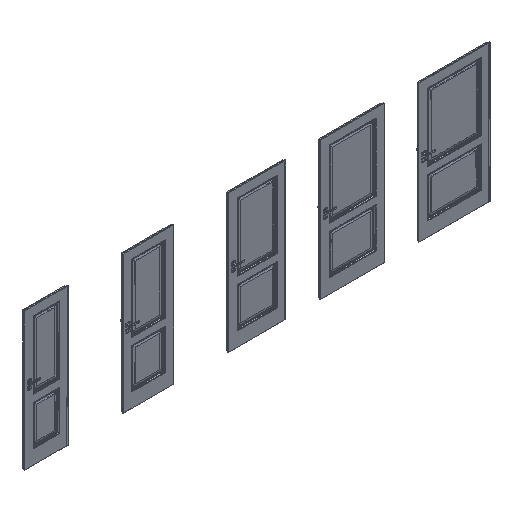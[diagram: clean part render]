
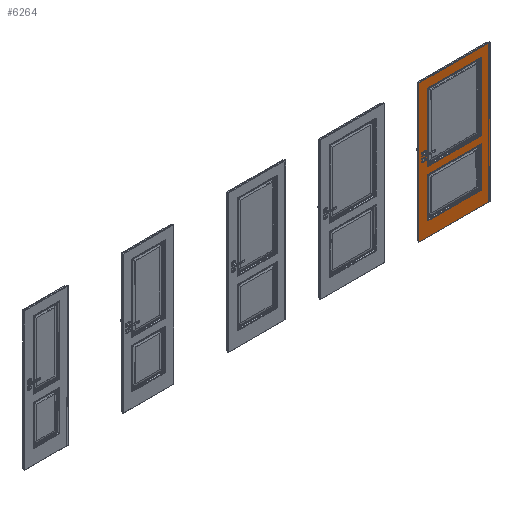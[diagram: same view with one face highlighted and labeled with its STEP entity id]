
A CAD part, isometric view. The second image highlights one B-rep face of the part: STEP entity #6264.
In plain terms, the highlighted planar face has unit normal (0, -1, 0).
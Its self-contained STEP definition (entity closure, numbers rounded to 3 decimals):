
#1485=B_SPLINE_CURVE_WITH_KNOTS('',3,(#74657,#74658,#74659,#74660),
 .UNSPECIFIED.,.F.,.F.,(4,4),(0.,1.),.UNSPECIFIED.);
#1486=B_SPLINE_CURVE_WITH_KNOTS('',3,(#74663,#74664,#74665,#74666),
 .UNSPECIFIED.,.F.,.F.,(4,4),(0.,1.),.UNSPECIFIED.);
#1487=B_SPLINE_CURVE_WITH_KNOTS('',3,(#74668,#74669,#74670,#74671),
 .UNSPECIFIED.,.F.,.F.,(4,4),(0.,1.),.UNSPECIFIED.);
#1488=B_SPLINE_CURVE_WITH_KNOTS('',3,(#74673,#74674,#74675,#74676),
 .UNSPECIFIED.,.F.,.F.,(4,4),(0.,1.),.UNSPECIFIED.);
#1489=B_SPLINE_CURVE_WITH_KNOTS('',3,(#74687,#74688,#74689,#74690),
 .UNSPECIFIED.,.F.,.F.,(4,4),(0.,1.),.UNSPECIFIED.);
#1490=B_SPLINE_CURVE_WITH_KNOTS('',3,(#74693,#74694,#74695,#74696),
 .UNSPECIFIED.,.F.,.F.,(4,4),(0.,1.),.UNSPECIFIED.);
#1491=B_SPLINE_CURVE_WITH_KNOTS('',3,(#74698,#74699,#74700,#74701),
 .UNSPECIFIED.,.F.,.F.,(4,4),(0.,1.),.UNSPECIFIED.);
#1492=B_SPLINE_CURVE_WITH_KNOTS('',3,(#74703,#74704,#74705,#74706),
 .UNSPECIFIED.,.F.,.F.,(4,4),(0.,1.),.UNSPECIFIED.);
#6264=ADVANCED_FACE('',(#9345,#9346,#9347),#7890,.F.);
#7890=PLANE('',#40108);
#9345=FACE_BOUND('',#10929,.T.);
#9346=FACE_BOUND('',#10930,.T.);
#9347=FACE_BOUND('',#10931,.T.);
#10929=EDGE_LOOP('',(#18228,#18229,#18230,#18231,#18232));
#10930=EDGE_LOOP('',(#18233,#18234,#18235,#18236));
#10931=EDGE_LOOP('',(#18237,#18238,#18239,#18240,#18241));
#18228=ORIENTED_EDGE('',*,*,#29345,.F.);
#18229=ORIENTED_EDGE('',*,*,#29346,.F.);
#18230=ORIENTED_EDGE('',*,*,#29347,.F.);
#18231=ORIENTED_EDGE('',*,*,#29348,.F.);
#18232=ORIENTED_EDGE('',*,*,#29349,.F.);
#18233=ORIENTED_EDGE('',*,*,#29350,.T.);
#18234=ORIENTED_EDGE('',*,*,#29351,.T.);
#18235=ORIENTED_EDGE('',*,*,#29352,.F.);
#18236=ORIENTED_EDGE('',*,*,#29353,.F.);
#18237=ORIENTED_EDGE('',*,*,#29354,.F.);
#18238=ORIENTED_EDGE('',*,*,#29355,.F.);
#18239=ORIENTED_EDGE('',*,*,#29356,.F.);
#18240=ORIENTED_EDGE('',*,*,#29357,.F.);
#18241=ORIENTED_EDGE('',*,*,#29358,.F.);
#24824=VERTEX_POINT('',#74661);
#24825=VERTEX_POINT('',#74662);
#24826=VERTEX_POINT('',#74667);
#24827=VERTEX_POINT('',#74672);
#24828=VERTEX_POINT('',#74677);
#24829=VERTEX_POINT('',#74680);
#24830=VERTEX_POINT('',#74681);
#24831=VERTEX_POINT('',#74683);
#24832=VERTEX_POINT('',#74685);
#24833=VERTEX_POINT('',#74691);
#24834=VERTEX_POINT('',#74692);
#24835=VERTEX_POINT('',#74697);
#24836=VERTEX_POINT('',#74702);
#24837=VERTEX_POINT('',#74707);
#29345=EDGE_CURVE('',#24824,#24825,#1485,.T.);
#29346=EDGE_CURVE('',#24826,#24824,#1486,.T.);
#29347=EDGE_CURVE('',#24827,#24826,#1487,.T.);
#29348=EDGE_CURVE('',#24828,#24827,#1488,.T.);
#29349=EDGE_CURVE('',#24825,#24828,#33537,.T.);
#29350=EDGE_CURVE('',#24829,#24830,#33538,.T.);
#29351=EDGE_CURVE('',#24830,#24831,#33539,.T.);
#29352=EDGE_CURVE('',#24832,#24831,#33540,.T.);
#29353=EDGE_CURVE('',#24829,#24832,#33541,.T.);
#29354=EDGE_CURVE('',#24833,#24834,#1489,.T.);
#29355=EDGE_CURVE('',#24835,#24833,#1490,.T.);
#29356=EDGE_CURVE('',#24836,#24835,#1491,.T.);
#29357=EDGE_CURVE('',#24837,#24836,#1492,.T.);
#29358=EDGE_CURVE('',#24834,#24837,#33542,.T.);
#33537=LINE('',#74678,#36951);
#33538=LINE('',#74679,#36952);
#33539=LINE('',#74682,#36953);
#33540=LINE('',#74684,#36954);
#33541=LINE('',#74686,#36955);
#33542=LINE('',#74708,#36956);
#36951=VECTOR('',#45817,1.);
#36952=VECTOR('',#45818,1.);
#36953=VECTOR('',#45819,1.);
#36954=VECTOR('',#45820,1.);
#36955=VECTOR('',#45821,1.);
#36956=VECTOR('',#45822,1.);
#40108=AXIS2_PLACEMENT_3D('',#74709,#45823,#45824);
#45817=DIRECTION('',(-1.,0.,0.));
#45818=DIRECTION('',(0.,0.,-1.));
#45819=DIRECTION('',(1.,0.,0.));
#45820=DIRECTION('',(0.,0.,-1.));
#45821=DIRECTION('',(1.,0.,0.));
#45822=DIRECTION('',(-1.,0.,0.));
#45823=DIRECTION('',(0.,1.,0.));
#45824=DIRECTION('',(-1.,0.,0.));
#74657=CARTESIAN_POINT('',(6392.5,-39.3,908.5));
#74658=CARTESIAN_POINT('',(6392.5,-39.3,1239.167));
#74659=CARTESIAN_POINT('',(6392.5,-39.3,1569.833));
#74660=CARTESIAN_POINT('',(6392.5,-39.3,1900.5));
#74661=CARTESIAN_POINT('',(6392.5,-39.3,908.5));
#74662=CARTESIAN_POINT('',(6392.502,-39.3,1900.501));
#74663=CARTESIAN_POINT('',(6000.,-39.3,908.5));
#74664=CARTESIAN_POINT('',(6130.833,-39.3,908.5));
#74665=CARTESIAN_POINT('',(6261.667,-39.3,908.5));
#74666=CARTESIAN_POINT('',(6392.5,-39.3,908.5));
#74667=CARTESIAN_POINT('',(6000.,-39.3,908.5));
#74668=CARTESIAN_POINT('',(5607.497,-39.3,908.497));
#74669=CARTESIAN_POINT('',(5738.333,-39.3,908.498));
#74670=CARTESIAN_POINT('',(5869.167,-39.3,908.499));
#74671=CARTESIAN_POINT('',(6000.,-39.3,908.5));
#74672=CARTESIAN_POINT('',(5607.498,-39.3,908.499));
#74673=CARTESIAN_POINT('',(5607.5,-39.3,1900.5));
#74674=CARTESIAN_POINT('',(5607.5,-39.3,1569.833));
#74675=CARTESIAN_POINT('',(5607.5,-39.3,1239.167));
#74676=CARTESIAN_POINT('',(5607.5,-39.3,908.5));
#74677=CARTESIAN_POINT('',(5607.5,-39.3,1900.5));
#74678=CARTESIAN_POINT('',(5903.75,-39.3,1900.5));
#74679=CARTESIAN_POINT('',(5478.,-39.3,2030.));
#74680=CARTESIAN_POINT('',(5478.,-39.3,2030.));
#74681=CARTESIAN_POINT('',(5478.,-39.3,2.));
#74682=CARTESIAN_POINT('',(5678.,-39.3,2.));
#74683=CARTESIAN_POINT('',(6522.,-39.3,2.));
#74684=CARTESIAN_POINT('',(6522.,-39.3,2030.));
#74685=CARTESIAN_POINT('',(6522.,-39.3,2030.));
#74686=CARTESIAN_POINT('',(5678.,-39.3,2030.));
#74687=CARTESIAN_POINT('',(6392.5,-39.3,214.5));
#74688=CARTESIAN_POINT('',(6392.5,-39.3,409.5));
#74689=CARTESIAN_POINT('',(6392.5,-39.3,604.5));
#74690=CARTESIAN_POINT('',(6392.5,-39.3,799.5));
#74691=CARTESIAN_POINT('',(6392.5,-39.3,214.5));
#74692=CARTESIAN_POINT('',(6392.502,-39.3,799.501));
#74693=CARTESIAN_POINT('',(6000.,-39.3,214.5));
#74694=CARTESIAN_POINT('',(6130.833,-39.3,214.5));
#74695=CARTESIAN_POINT('',(6261.667,-39.3,214.5));
#74696=CARTESIAN_POINT('',(6392.5,-39.3,214.5));
#74697=CARTESIAN_POINT('',(6000.,-39.3,214.5));
#74698=CARTESIAN_POINT('',(5607.497,-39.3,214.497));
#74699=CARTESIAN_POINT('',(5738.333,-39.3,214.498));
#74700=CARTESIAN_POINT('',(5869.167,-39.3,214.499));
#74701=CARTESIAN_POINT('',(6000.,-39.3,214.5));
#74702=CARTESIAN_POINT('',(5607.498,-39.3,214.499));
#74703=CARTESIAN_POINT('',(5607.5,-39.3,799.5));
#74704=CARTESIAN_POINT('',(5607.5,-39.3,604.5));
#74705=CARTESIAN_POINT('',(5607.5,-39.3,409.5));
#74706=CARTESIAN_POINT('',(5607.5,-39.3,214.5));
#74707=CARTESIAN_POINT('',(5607.5,-39.3,799.5));
#74708=CARTESIAN_POINT('',(5903.75,-39.3,799.5));
#74709=CARTESIAN_POINT('',(5678.,-39.3,2030.));
